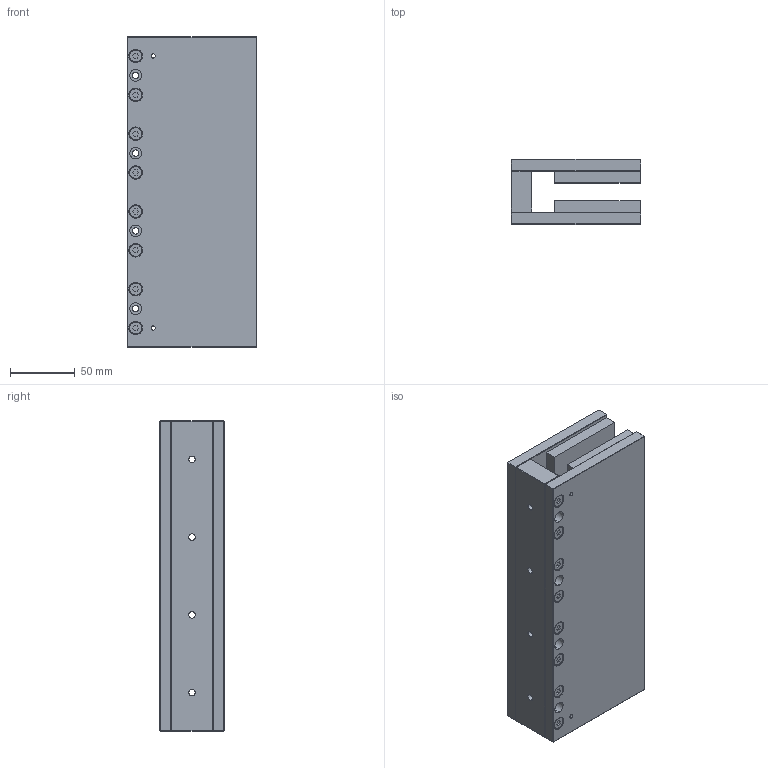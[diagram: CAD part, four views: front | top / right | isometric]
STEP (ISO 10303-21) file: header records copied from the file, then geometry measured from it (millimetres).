
FILE_DESCRIPTION (( 'STEP AP203' ), '1' );
FILE_NAME ('DX65F-TL240.step', '2021-01-04T11:02:22', ( '' ), ( '' ), 'SwSTEP 2.0', 'SolidWorks 2020', '' );
FILE_SCHEMA (( 'CONFIG_CONTROL_DESIGN' ));
Length unit declared in the file: millimetre
Products named in the file (1): DX65F-TL240
Bounding box: 100 x 50 x 239.5 mm (x, y, z)
Volume: 818607.4 mm3; surface area: 142088.8 mm2
Topology: 1 solids, 25 shells, 518 faces, 1102 edges, 684 vertices
Faces by surface type: plane 286, cylinder 200, torus 32
Entity records: 14019 total; most frequent: DIRECTION 2556, CARTESIAN_POINT 2353, ORIENTED_EDGE 2204, EDGE_CURVE 1102, AXIS2_PLACEMENT_3D 951, VERTEX_POINT 684, VECTOR 654, LINE 654
